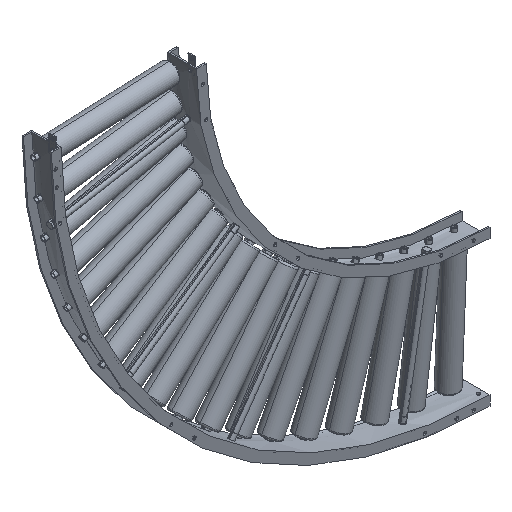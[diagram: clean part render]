
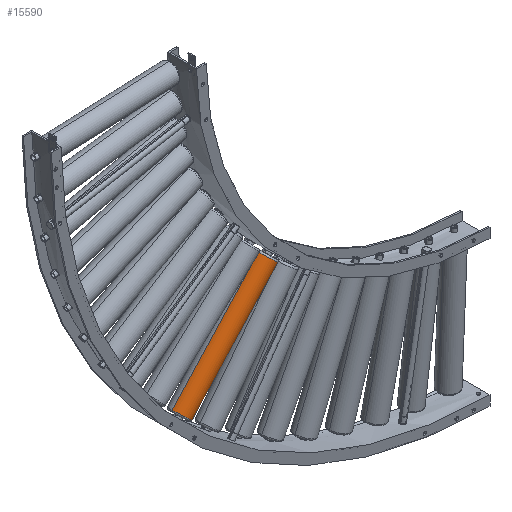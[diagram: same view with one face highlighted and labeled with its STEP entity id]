
A CAD part, isometric view. The second image highlights one B-rep face of the part: STEP entity #15590.
In plain terms, the highlighted cylindrical face has radius 30.25 mm (diameter 60.5 mm), a partial arc.
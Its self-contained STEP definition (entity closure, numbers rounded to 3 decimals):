
#240 = CARTESIAN_POINT ( 'NONE',  ( -255.066, 46.699, -510.304 ) ) ;
#552 = DIRECTION ( 'NONE',  ( 0.737, 0., -0.676 ) ) ;
#715 = EDGE_LOOP ( 'NONE', ( #12620, #6327, #10438, #8083 ) ) ;
#1371 = VERTEX_POINT ( 'NONE', #11257 ) ;
#3133 = VERTEX_POINT ( 'NONE', #8080 ) ;
#3648 = DIRECTION ( 'NONE',  ( 0.737, 0., -0.676 ) ) ;
#4901 = EDGE_CURVE ( 'NONE', #10198, #3133, #11957, .T. ) ;
#5670 = AXIS2_PLACEMENT_3D ( 'NONE', #6473, #23697, #3648 ) ;
#6327 = ORIENTED_EDGE ( 'NONE', *, *, #12164, .T. ) ;
#6330 = LINE ( 'NONE', #8974, #13835 ) ;
#6473 = CARTESIAN_POINT ( 'NONE',  ( 8.414, 46.699, -222.766 ) ) ;
#6724 = EDGE_CURVE ( 'NONE', #1371, #12929, #6330, .T. ) ;
#7475 = CARTESIAN_POINT ( 'NONE',  ( 11.792, 46.699, -219.079 ) ) ;
#8080 = CARTESIAN_POINT ( 'NONE',  ( -277.369, 46.699, -489.867 ) ) ;
#8083 = ORIENTED_EDGE ( 'NONE', *, *, #29719, .T. ) ;
#8373 = CARTESIAN_POINT ( 'NONE',  ( -13.889, 46.699, -202.329 ) ) ;
#8974 = CARTESIAN_POINT ( 'NONE',  ( 34.095, 46.699, -239.516 ) ) ;
#9532 = VECTOR ( 'NONE', #31987, 1000. ) ;
#9798 = CARTESIAN_POINT ( 'NONE',  ( -10.511, 46.699, -198.643 ) ) ;
#10198 = VERTEX_POINT ( 'NONE', #8373 ) ;
#10438 = ORIENTED_EDGE ( 'NONE', *, *, #4901, .T. ) ;
#10975 = DIRECTION ( 'NONE',  ( -0.676, 0., -0.737 ) ) ;
#11257 = CARTESIAN_POINT ( 'NONE',  ( 30.717, 46.699, -243.202 ) ) ;
#11957 = LINE ( 'NONE', #9798, #9532 ) ;
#12164 = EDGE_CURVE ( 'NONE', #1371, #10198, #25247, .T. ) ;
#12507 = AXIS2_PLACEMENT_3D ( 'NONE', #7475, #17588, #27823 ) ;
#12620 = ORIENTED_EDGE ( 'NONE', *, *, #6724, .F. ) ;
#12929 = VERTEX_POINT ( 'NONE', #31546 ) ;
#13835 = VECTOR ( 'NONE', #10975, 1000. ) ;
#15310 = AXIS2_PLACEMENT_3D ( 'NONE', #240, #23267, #552 ) ;
#15590 = ADVANCED_FACE ( 'NONE', ( #20537 ), #30161, .T. ) ;
#17588 = DIRECTION ( 'NONE',  ( -0.676, 0., -0.737 ) ) ;
#20537 = FACE_OUTER_BOUND ( 'NONE', #715, .T. ) ;
#23267 = DIRECTION ( 'NONE',  ( 0.676, 0., 0.737 ) ) ;
#23697 = DIRECTION ( 'NONE',  ( -0.676, 0., -0.737 ) ) ;
#25247 = CIRCLE ( 'NONE', #5670, 30.25 ) ;
#25842 = CIRCLE ( 'NONE', #15310, 30.25 ) ;
#27823 = DIRECTION ( 'NONE',  ( -0.737, 0., 0.676 ) ) ;
#29719 = EDGE_CURVE ( 'NONE', #3133, #12929, #25842, .T. ) ;
#30161 = CYLINDRICAL_SURFACE ( 'NONE', #12507, 30.25 ) ;
#31546 = CARTESIAN_POINT ( 'NONE',  ( -232.764, 46.699, -530.74 ) ) ;
#31987 = DIRECTION ( 'NONE',  ( -0.676, 0., -0.737 ) ) ;
